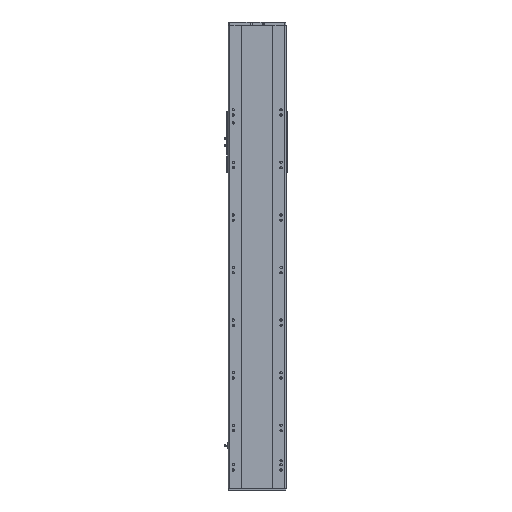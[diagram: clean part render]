
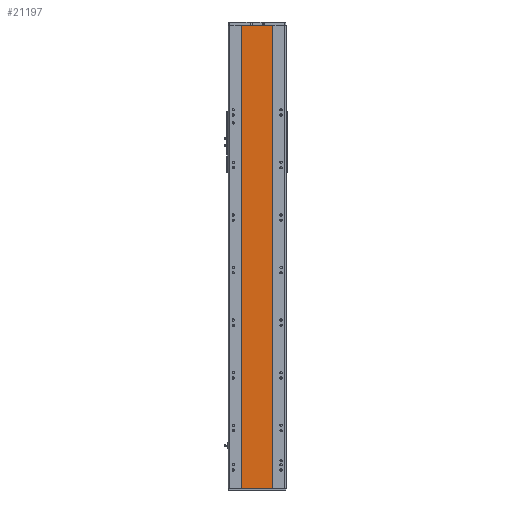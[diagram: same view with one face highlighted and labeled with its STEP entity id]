
A CAD part, front view. The second image highlights one B-rep face of the part: STEP entity #21197.
In plain terms, the highlighted planar face has unit normal (0, -1, 0).
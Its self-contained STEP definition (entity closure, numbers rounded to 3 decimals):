
#685 = VERTEX_POINT ( 'NONE', #34725 ) ;
#1817 = EDGE_CURVE ( 'NONE', #22100, #32743, #33979, .T. ) ;
#5052 = LINE ( 'NONE', #7937, #14961 ) ;
#7937 = CARTESIAN_POINT ( 'NONE',  ( -59., 1., 880.5 ) ) ;
#8582 = FACE_OUTER_BOUND ( 'NONE', #11719, .T. ) ;
#10643 = ORIENTED_EDGE ( 'NONE', *, *, #22873, .T. ) ;
#10780 = EDGE_CURVE ( 'NONE', #31987, #32743, #14744, .T. ) ;
#11100 = DIRECTION ( 'NONE',  ( -1., 0., 0. ) ) ;
#11719 = EDGE_LOOP ( 'NONE', ( #20045, #23844, #30280, #10643 ) ) ;
#14744 = LINE ( 'NONE', #36250, #17095 ) ;
#14961 = VECTOR ( 'NONE', #23435, 1000. ) ;
#15579 = EDGE_CURVE ( 'NONE', #685, #22100, #5052, .T. ) ;
#15806 = DIRECTION ( 'NONE',  ( 0., 0., -1. ) ) ;
#17095 = VECTOR ( 'NONE', #35863, 1000. ) ;
#17459 = LINE ( 'NONE', #18577, #33627 ) ;
#18577 = CARTESIAN_POINT ( 'NONE',  ( -59., 1., 880.5 ) ) ;
#19330 = CARTESIAN_POINT ( 'NONE',  ( 59., 1., 880.5 ) ) ;
#20045 = ORIENTED_EDGE ( 'NONE', *, *, #10780, .T. ) ;
#21197 = ADVANCED_FACE ( 'NONE', ( #8582 ), #35733, .F. ) ;
#22100 = VERTEX_POINT ( 'NONE', #23146 ) ;
#22873 = EDGE_CURVE ( 'NONE', #685, #31987, #17459, .T. ) ;
#23146 = CARTESIAN_POINT ( 'NONE',  ( 59., 1., 880.5 ) ) ;
#23435 = DIRECTION ( 'NONE',  ( 1., 0., 0. ) ) ;
#23751 = AXIS2_PLACEMENT_3D ( 'NONE', #32453, #35480, #11100 ) ;
#23844 = ORIENTED_EDGE ( 'NONE', *, *, #1817, .F. ) ;
#24206 = CARTESIAN_POINT ( 'NONE',  ( 59., 1., -880.5 ) ) ;
#25185 = DIRECTION ( 'NONE',  ( 0., 0., -1. ) ) ;
#27144 = CARTESIAN_POINT ( 'NONE',  ( -59., 1., -880.5 ) ) ;
#30280 = ORIENTED_EDGE ( 'NONE', *, *, #15579, .F. ) ;
#31618 = VECTOR ( 'NONE', #25185, 1000. ) ;
#31987 = VERTEX_POINT ( 'NONE', #27144 ) ;
#32453 = CARTESIAN_POINT ( 'NONE',  ( -59., 1., 880.5 ) ) ;
#32743 = VERTEX_POINT ( 'NONE', #24206 ) ;
#33627 = VECTOR ( 'NONE', #15806, 1000. ) ;
#33979 = LINE ( 'NONE', #19330, #31618 ) ;
#34725 = CARTESIAN_POINT ( 'NONE',  ( -59., 1., 880.5 ) ) ;
#35480 = DIRECTION ( 'NONE',  ( 0., 1., 0. ) ) ;
#35733 = PLANE ( 'NONE',  #23751 ) ;
#35863 = DIRECTION ( 'NONE',  ( 1., 0., 0. ) ) ;
#36250 = CARTESIAN_POINT ( 'NONE',  ( -59., 1., -880.5 ) ) ;
